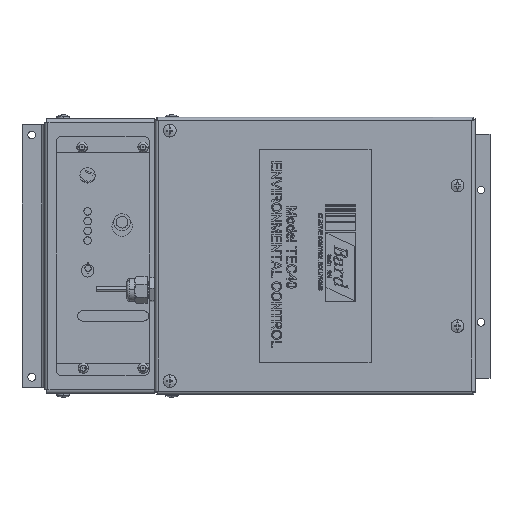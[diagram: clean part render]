
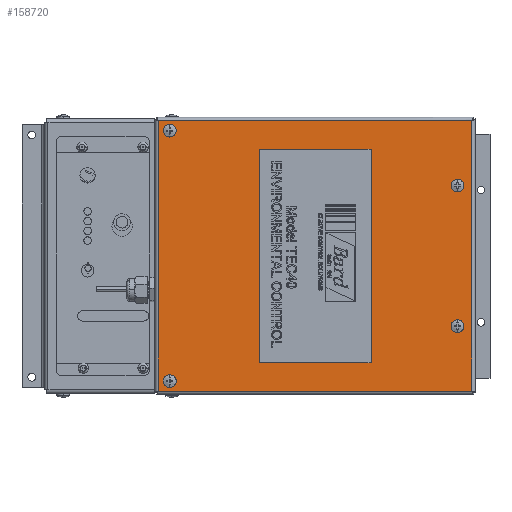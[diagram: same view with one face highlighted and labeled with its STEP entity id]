
A CAD part, top view. The second image highlights one B-rep face of the part: STEP entity #158720.
In plain terms, the highlighted planar face has unit normal (0, 0, 1).
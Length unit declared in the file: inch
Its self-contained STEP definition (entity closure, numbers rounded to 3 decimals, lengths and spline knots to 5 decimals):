
#1398 = CARTESIAN_POINT ( 'NONE',  ( 4.92048, -0.93427, 1.32061 ) ) ;
#1431 = EDGE_CURVE ( 'NONE', #83302, #1812, #126424, .T. ) ;
#1812 = VERTEX_POINT ( 'NONE', #117419 ) ;
#1897 = EDGE_CURVE ( 'NONE', #1812, #34924, #154261, .T. ) ;
#3768 = CARTESIAN_POINT ( 'NONE',  ( 4.92048, -0.93427, 1.32061 ) ) ;
#5934 = AXIS2_PLACEMENT_3D ( 'NONE', #26255, #129860, #41084 ) ;
#10331 = VERTEX_POINT ( 'NONE', #126532 ) ;
#12045 = CIRCLE ( 'NONE', #158862, 0.09375 ) ;
#12700 = AXIS2_PLACEMENT_3D ( 'NONE', #169204, #80315, #184193 ) ;
#16310 = DIRECTION ( 'NONE',  ( 1., 0., 0. ) ) ;
#17291 = CARTESIAN_POINT ( 'NONE',  ( -2.05431, 3.87016, 1.32061 ) ) ;
#18121 = CARTESIAN_POINT ( 'NONE',  ( 5.27542, -2.52827, 1.32061 ) ) ;
#18665 = DIRECTION ( 'NONE',  ( 1., 0., 0. ) ) ;
#26002 = ORIENTED_EDGE ( 'NONE', *, *, #48951, .T. ) ;
#26255 = CARTESIAN_POINT ( 'NONE',  ( -2.14806, 3.87016, 1.32061 ) ) ;
#26531 = DIRECTION ( 'NONE',  ( 0., 1., 0. ) ) ;
#26933 = ORIENTED_EDGE ( 'NONE', *, *, #1897, .T. ) ;
#27165 = ORIENTED_EDGE ( 'NONE', *, *, #67091, .T. ) ;
#28003 = VERTEX_POINT ( 'NONE', #40311 ) ;
#28348 = FACE_BOUND ( 'NONE', #63960, .T. ) ;
#33361 = DIRECTION ( 'NONE',  ( 0., 0., -1. ) ) ;
#34525 = AXIS2_PLACEMENT_3D ( 'NONE', #183453, #184739, #95818 ) ;
#34572 = AXIS2_PLACEMENT_3D ( 'NONE', #59564, #163445, #74522 ) ;
#34924 = VERTEX_POINT ( 'NONE', #143628 ) ;
#37341 = DIRECTION ( 'NONE',  ( -1., 0., 0. ) ) ;
#38240 = ORIENTED_EDGE ( 'NONE', *, *, #151517, .T. ) ;
#40311 = CARTESIAN_POINT ( 'NONE',  ( -2.24181, -2.28371, 1.32061 ) ) ;
#41084 = DIRECTION ( 'NONE',  ( 1., 0., 0. ) ) ;
#41376 = CARTESIAN_POINT ( 'NONE',  ( 5.27542, -2.91355, 1.32061 ) ) ;
#41820 = VERTEX_POINT ( 'NONE', #156758 ) ;
#47277 = AXIS2_PLACEMENT_3D ( 'NONE', #1398, #105059, #16310 ) ;
#48951 = EDGE_CURVE ( 'NONE', #83827, #28003, #12045, .T. ) ;
#52846 = CIRCLE ( 'NONE', #47277, 0.09375 ) ;
#59564 = CARTESIAN_POINT ( 'NONE',  ( 4.92048, 2.52073, 1.32061 ) ) ;
#61403 = EDGE_LOOP ( 'NONE', ( #122873, #142032 ) ) ;
#63960 = EDGE_LOOP ( 'NONE', ( #26002, #178140 ) ) ;
#64391 = LINE ( 'NONE', #95719, #143260 ) ;
#65820 = AXIS2_PLACEMENT_3D ( 'NONE', #167339, #78390, #182278 ) ;
#67091 = EDGE_CURVE ( 'NONE', #34924, #102863, #64391, .T. ) ;
#67745 = FACE_BOUND ( 'NONE', #185759, .T. ) ;
#72505 = EDGE_LOOP ( 'NONE', ( #126117, #38240 ) ) ;
#74522 = DIRECTION ( 'NONE',  ( 1., 0., 0. ) ) ;
#77549 = VERTEX_POINT ( 'NONE', #17291 ) ;
#78390 = DIRECTION ( 'NONE',  ( 0., 0., -1. ) ) ;
#78608 = CARTESIAN_POINT ( 'NONE',  ( 5.27542, 4.11473, 1.32061 ) ) ;
#80315 = DIRECTION ( 'NONE',  ( 0., 0., -1. ) ) ;
#80843 = CIRCLE ( 'NONE', #34572, 0.09375 ) ;
#80881 = PLANE ( 'NONE',  #34525 ) ;
#81835 = DIRECTION ( 'NONE',  ( 0., 0., -1. ) ) ;
#83216 = CARTESIAN_POINT ( 'NONE',  ( 4.82673, 2.52073, 1.32061 ) ) ;
#83302 = VERTEX_POINT ( 'NONE', #78608 ) ;
#83827 = VERTEX_POINT ( 'NONE', #143862 ) ;
#85652 = CIRCLE ( 'NONE', #92584, 0.09375 ) ;
#87106 = VECTOR ( 'NONE', #37341, 39.37008 ) ;
#87235 = CIRCLE ( 'NONE', #12700, 0.09375 ) ;
#89532 = VECTOR ( 'NONE', #26531, 39.37008 ) ;
#91155 = AXIS2_PLACEMENT_3D ( 'NONE', #3768, #107401, #18665 ) ;
#91482 = ORIENTED_EDGE ( 'NONE', *, *, #189330, .T. ) ;
#92584 = AXIS2_PLACEMENT_3D ( 'NONE', #170727, #81835, #185708 ) ;
#93332 = CIRCLE ( 'NONE', #91155, 0.09375 ) ;
#95360 = EDGE_CURVE ( 'NONE', #28003, #83827, #112429, .T. ) ;
#95719 = CARTESIAN_POINT ( 'NONE',  ( 5.66069, -2.52827, 1.32061 ) ) ;
#95818 = DIRECTION ( 'NONE',  ( 1., 0., 0. ) ) ;
#101824 = VERTEX_POINT ( 'NONE', #83216 ) ;
#102863 = VERTEX_POINT ( 'NONE', #18121 ) ;
#104476 = DIRECTION ( 'NONE',  ( 0., -1., 0. ) ) ;
#105059 = DIRECTION ( 'NONE',  ( 0., 0., -1. ) ) ;
#105829 = EDGE_CURVE ( 'NONE', #102863, #83302, #133538, .T. ) ;
#107339 = EDGE_CURVE ( 'NONE', #136853, #101824, #80843, .T. ) ;
#107401 = DIRECTION ( 'NONE',  ( 0., 0., -1. ) ) ;
#112429 = CIRCLE ( 'NONE', #65820, 0.09375 ) ;
#113513 = EDGE_CURVE ( 'NONE', #10331, #135424, #93332, .T. ) ;
#117419 = CARTESIAN_POINT ( 'NONE',  ( -2.43008, 4.11473, 1.32061 ) ) ;
#122071 = CARTESIAN_POINT ( 'NONE',  ( -2.14806, -2.28371, 1.32061 ) ) ;
#122873 = ORIENTED_EDGE ( 'NONE', *, *, #113513, .T. ) ;
#125919 = EDGE_LOOP ( 'NONE', ( #26933, #27165, #161978, #140162 ) ) ;
#126117 = ORIENTED_EDGE ( 'NONE', *, *, #180076, .T. ) ;
#126424 = LINE ( 'NONE', #170931, #87106 ) ;
#126532 = CARTESIAN_POINT ( 'NONE',  ( 5.01423, -0.93427, 1.32061 ) ) ;
#128691 = VECTOR ( 'NONE', #104476, 39.37008 ) ;
#129577 = CIRCLE ( 'NONE', #5934, 0.09375 ) ;
#129860 = DIRECTION ( 'NONE',  ( 0., 0., -1. ) ) ;
#133538 = LINE ( 'NONE', #41376, #89532 ) ;
#135424 = VERTEX_POINT ( 'NONE', #169802 ) ;
#136853 = VERTEX_POINT ( 'NONE', #170919 ) ;
#137025 = DIRECTION ( 'NONE',  ( 1., 0., 0. ) ) ;
#140162 = ORIENTED_EDGE ( 'NONE', *, *, #1431, .T. ) ;
#141935 = FACE_BOUND ( 'NONE', #72505, .T. ) ;
#142032 = ORIENTED_EDGE ( 'NONE', *, *, #162924, .T. ) ;
#143260 = VECTOR ( 'NONE', #143612, 39.37008 ) ;
#143612 = DIRECTION ( 'NONE',  ( 1., 0., 0. ) ) ;
#143628 = CARTESIAN_POINT ( 'NONE',  ( -2.43008, -2.52827, 1.32061 ) ) ;
#143862 = CARTESIAN_POINT ( 'NONE',  ( -2.05431, -2.28371, 1.32061 ) ) ;
#148597 = CARTESIAN_POINT ( 'NONE',  ( -2.43008, -2.91355, 1.32061 ) ) ;
#151517 = EDGE_CURVE ( 'NONE', #41820, #77549, #87235, .T. ) ;
#154261 = LINE ( 'NONE', #148597, #128691 ) ;
#156758 = CARTESIAN_POINT ( 'NONE',  ( -2.24181, 3.87016, 1.32061 ) ) ;
#157214 = ORIENTED_EDGE ( 'NONE', *, *, #107339, .T. ) ;
#158720 = ADVANCED_FACE ( 'NONE', ( #181531, #67745, #186198, #141935, #28348 ), #80881, .T. ) ;
#158862 = AXIS2_PLACEMENT_3D ( 'NONE', #122071, #33361, #137025 ) ;
#161978 = ORIENTED_EDGE ( 'NONE', *, *, #105829, .T. ) ;
#162924 = EDGE_CURVE ( 'NONE', #135424, #10331, #52846, .T. ) ;
#163445 = DIRECTION ( 'NONE',  ( 0., 0., -1. ) ) ;
#167339 = CARTESIAN_POINT ( 'NONE',  ( -2.14806, -2.28371, 1.32061 ) ) ;
#169204 = CARTESIAN_POINT ( 'NONE',  ( -2.14806, 3.87016, 1.32061 ) ) ;
#169802 = CARTESIAN_POINT ( 'NONE',  ( 4.82673, -0.93427, 1.32061 ) ) ;
#170727 = CARTESIAN_POINT ( 'NONE',  ( 4.92048, 2.52073, 1.32061 ) ) ;
#170919 = CARTESIAN_POINT ( 'NONE',  ( 5.01423, 2.52073, 1.32061 ) ) ;
#170931 = CARTESIAN_POINT ( 'NONE',  ( 5.66069, 4.11473, 1.32061 ) ) ;
#178140 = ORIENTED_EDGE ( 'NONE', *, *, #95360, .T. ) ;
#180076 = EDGE_CURVE ( 'NONE', #77549, #41820, #129577, .T. ) ;
#181531 = FACE_OUTER_BOUND ( 'NONE', #125919, .T. ) ;
#182278 = DIRECTION ( 'NONE',  ( 1., 0., 0. ) ) ;
#183453 = CARTESIAN_POINT ( 'NONE',  ( 5.66069, -2.91355, 1.32061 ) ) ;
#184193 = DIRECTION ( 'NONE',  ( 1., 0., 0. ) ) ;
#184739 = DIRECTION ( 'NONE',  ( 0., 0., 1. ) ) ;
#185708 = DIRECTION ( 'NONE',  ( 1., 0., 0. ) ) ;
#185759 = EDGE_LOOP ( 'NONE', ( #157214, #91482 ) ) ;
#186198 = FACE_BOUND ( 'NONE', #61403, .T. ) ;
#189330 = EDGE_CURVE ( 'NONE', #101824, #136853, #85652, .T. ) ;
